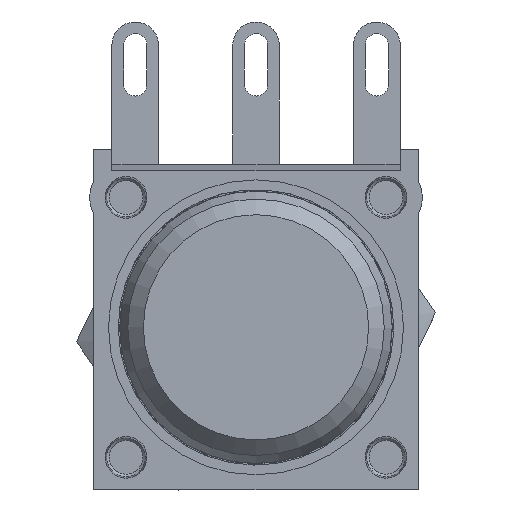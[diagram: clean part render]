
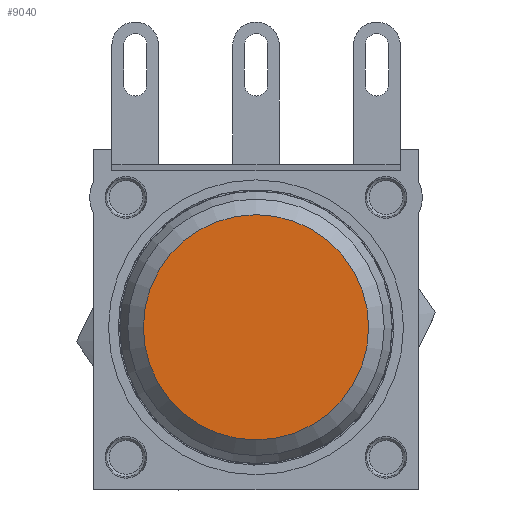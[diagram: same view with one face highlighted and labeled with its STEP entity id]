
A CAD part, left-side view. The second image highlights one B-rep face of the part: STEP entity #9040.
In plain terms, the highlighted planar face has unit normal (-1, 0, 0) as drawn and (0, 0, 1) by its records, which use the part's own axes.
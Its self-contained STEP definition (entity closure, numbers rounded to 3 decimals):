
#3879=ORIENTED_EDGE('',*,*,#5465,.T.);
#5465=EDGE_CURVE('',#6446,#6446,#6986,.T.);
#6446=VERTEX_POINT('',#15313);
#6986=CIRCLE('',#10422,4.334);
#7565=EDGE_LOOP('',(#3879));
#8235=FACE_BOUND('',#7565,.T.);
#8606=PLANE('',#10421);
#9040=ADVANCED_FACE('',(#8235),#8606,.T.);
#10421=AXIS2_PLACEMENT_3D('',#15311,#12625,#12626);
#10422=AXIS2_PLACEMENT_3D('',#15312,#12627,#12628);
#12625=DIRECTION('',(0.,0.,1.));
#12626=DIRECTION('',(1.,0.,0.));
#12627=DIRECTION('',(0.,0.,1.));
#12628=DIRECTION('',(1.,0.,0.));
#15311=CARTESIAN_POINT('',(0.,0.,1.4));
#15312=CARTESIAN_POINT('',(0.,0.,1.4));
#15313=CARTESIAN_POINT('',(4.334,0.,1.4));
